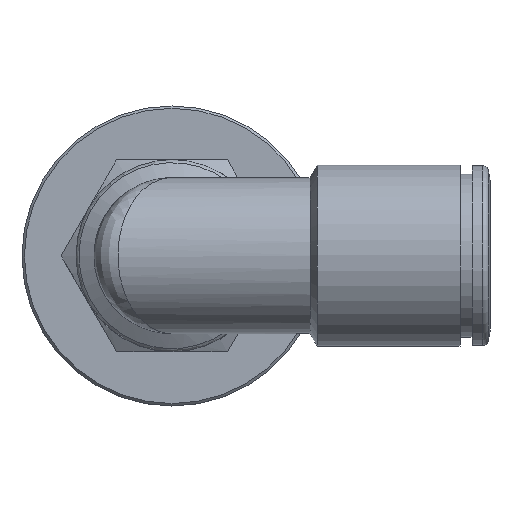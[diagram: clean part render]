
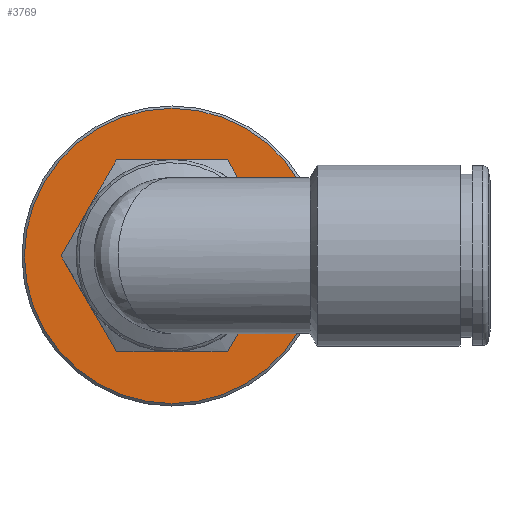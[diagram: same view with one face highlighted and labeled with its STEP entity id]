
A CAD part, top view. The second image highlights one B-rep face of the part: STEP entity #3769.
In plain terms, the highlighted planar face has unit normal (0, 0, 1) as drawn and (0, 1, 0) by its records, which use the part's own axes.
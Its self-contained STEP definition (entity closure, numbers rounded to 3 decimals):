
#28=VECTOR('',#2044,1.);
#31=VECTOR('',#2053,1.);
#32=VECTOR('',#2054,1.);
#33=VECTOR('',#2055,1.);
#34=VECTOR('',#2056,1.);
#35=VECTOR('',#2057,1.);
#40=LINE('',#2342,#28);
#43=LINE('',#2351,#31);
#44=LINE('',#2353,#32);
#45=LINE('',#2355,#33);
#46=LINE('',#2357,#34);
#47=LINE('',#2358,#35);
#1265=ORIENTED_EDGE('',*,*,#1595,.T.);
#1266=ORIENTED_EDGE('',*,*,#1591,.F.);
#1267=ORIENTED_EDGE('',*,*,#1596,.F.);
#1268=ORIENTED_EDGE('',*,*,#1597,.F.);
#1269=ORIENTED_EDGE('',*,*,#1598,.F.);
#1270=ORIENTED_EDGE('',*,*,#1599,.F.);
#1271=ORIENTED_EDGE('',*,*,#1600,.F.);
#1441=CIRCLE('',#3631,12.3);
#1505=VERTEX_POINT('',#2340);
#1506=VERTEX_POINT('',#2341);
#1508=VERTEX_POINT('',#2348);
#1509=VERTEX_POINT('',#2350);
#1510=VERTEX_POINT('',#2352);
#1511=VERTEX_POINT('',#2354);
#1512=VERTEX_POINT('',#2356);
#1591=EDGE_CURVE('',#1505,#1506,#40,.T.);
#1595=EDGE_CURVE('',#1508,#1508,#1441,.T.);
#1596=EDGE_CURVE('',#1509,#1505,#43,.T.);
#1597=EDGE_CURVE('',#1510,#1509,#44,.T.);
#1598=EDGE_CURVE('',#1511,#1510,#45,.T.);
#1599=EDGE_CURVE('',#1512,#1511,#46,.T.);
#1600=EDGE_CURVE('',#1506,#1512,#47,.T.);
#1711=EDGE_LOOP('',(#1265));
#1712=EDGE_LOOP('',(#1266,#1267,#1268,#1269,#1270,#1271));
#1838=FACE_BOUND('',#1711,.T.);
#1839=FACE_BOUND('',#1712,.T.);
#2044=DIRECTION('',(9.238,0.,0.));
#2049=DIRECTION('',(0.,1.,0.));
#2050=DIRECTION('',(1.,0.,0.));
#2051=DIRECTION('',(0.,1.,0.));
#2052=DIRECTION('',(0.,0.,-12.3));
#2053=DIRECTION('',(4.619,0.,8.));
#2054=DIRECTION('',(-4.619,0.,8.));
#2055=DIRECTION('',(-9.238,0.,0.));
#2056=DIRECTION('',(-4.619,0.,-8.));
#2057=DIRECTION('',(4.619,0.,-8.));
#2340=CARTESIAN_POINT('',(92.763,110.81,8.));
#2341=CARTESIAN_POINT('',(102.001,110.81,8.));
#2342=CARTESIAN_POINT('',(92.763,110.81,8.));
#2347=CARTESIAN_POINT('',(109.682,110.81,0.));
#2348=CARTESIAN_POINT('',(97.382,110.81,-12.3));
#2349=CARTESIAN_POINT('',(97.382,110.81,0.));
#2350=CARTESIAN_POINT('',(88.145,110.81,0.));
#2351=CARTESIAN_POINT('',(88.145,110.81,0.));
#2352=CARTESIAN_POINT('',(92.763,110.81,-8.));
#2353=CARTESIAN_POINT('',(92.763,110.81,-8.));
#2354=CARTESIAN_POINT('',(102.001,110.81,-8.));
#2355=CARTESIAN_POINT('',(102.001,110.81,-8.));
#2356=CARTESIAN_POINT('',(106.62,110.81,0.));
#2357=CARTESIAN_POINT('',(106.62,110.81,0.));
#2358=CARTESIAN_POINT('',(102.001,110.81,8.));
#3630=AXIS2_PLACEMENT_3D('',#2347,#2049,#2050);
#3631=AXIS2_PLACEMENT_3D('',#2349,#2051,#2052);
#3731=PLANE('',#3630);
#3769=ADVANCED_FACE('',(#1838,#1839),#3731,.T.);
